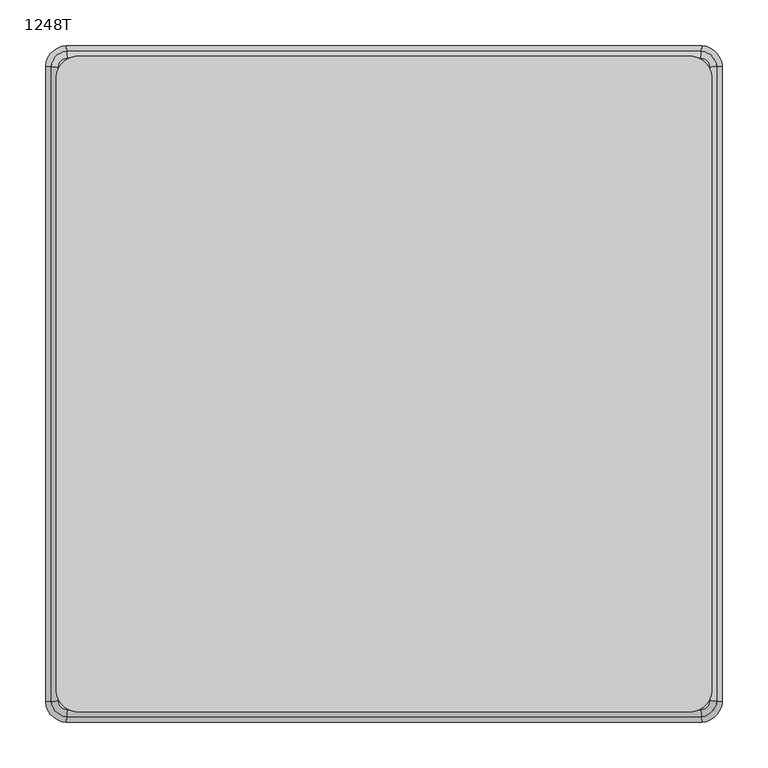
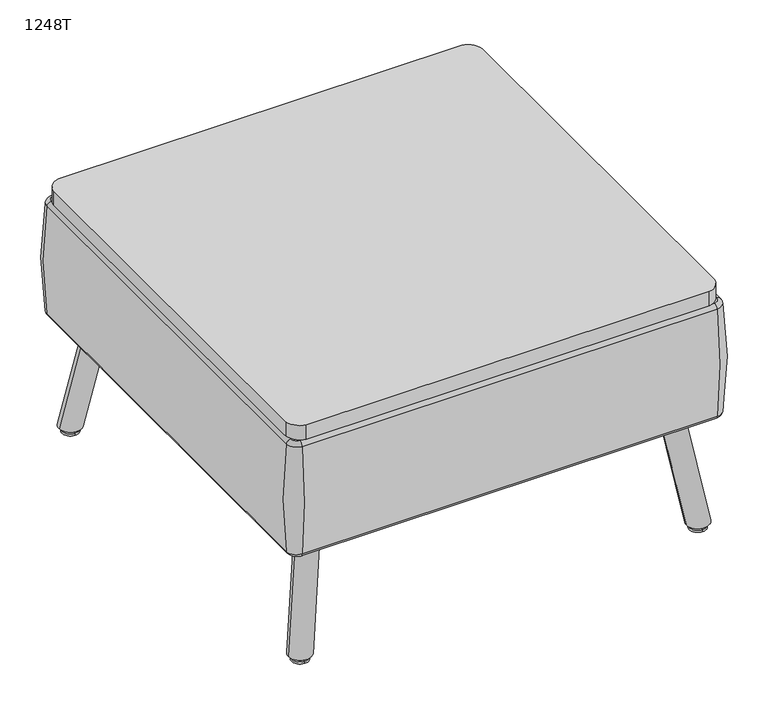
"""IFC4 building model written with IfcOpenShell, lengths in millimetres: furniture geometry, Laguna-Square_Ottomans-With_Legs-ERG : 1248T."""

from ifc_helpers import new_model, si_unit, point, frame, frame_2d, origin, place, context, project, spatial, polyline, circle_curve, ellipse_curve, trimmed, segment, composite_curve, outline, extrude, source, transform, mapped, element, save
from ifc_brep_helpers import plane_surface, cylinder_surface, revolved_surface, spline_surface, advanced_brep


def furniture_1248t_9be65b18(model_context):
    return source(origin(), model_context, "Body", "SolidModel", [
        extrude(outline(composite_curve([segment(trimmed(circle_curve(frame_2d((-4023.6772587, 595.0909326)), 25.4), [point((-3998.5401244, 591.4461449))], [point((-4020.032471, 569.9537983))], False, "CARTESIAN"), True, "CONTINUOUS"), segment(trimmed(circle_curve(frame_2d((-4357.9421763, 6623.2359155)), 6062.7062736), [point((-4020.032471, 569.9537983))], [point((-4695.8518816, 569.9537983))], False, "CARTESIAN"), True, "CONTINUOUS"), segment(trimmed(circle_curve(frame_2d((-4692.2070939, 595.0909326)), 25.4), [point((-4695.8518816, 569.9537983))], [point((-4717.3442282, 591.4461449))], False, "CARTESIAN"), True, "CONTINUOUS"), segment(trimmed(circle_curve(frame_2d((1335.937889, 929.3558502)), 6062.7062736), [point((-4717.3442282, 591.4461449))], [point((-4717.3442282, 1267.2655555))], False, "CARTESIAN"), True, "CONTINUOUS"), segment(trimmed(circle_curve(frame_2d((-4692.2070939, 1263.6207677)), 25.4), [point((-4717.3442282, 1267.2655555))], [point((-4695.8518816, 1288.7579021))], False, "CARTESIAN"), True, "CONTINUOUS"), segment(trimmed(circle_curve(frame_2d((-4357.9421763, -4764.5242152)), 6062.7062736), [point((-4695.8518816, 1288.7579021))], [point((-4020.032471, 1288.7579021))], False, "CARTESIAN"), True, "CONTINUOUS"), segment(trimmed(circle_curve(frame_2d((-4023.6772587, 1263.6207677)), 25.4), [point((-4020.032471, 1288.7579021))], [point((-3998.5401244, 1267.2655555))], False, "CARTESIAN"), True, "CONTINUOUS"), segment(trimmed(circle_curve(frame_2d((-10051.8222416, 929.3558502)), 6062.7062736), [point((-3998.5401244, 1267.2655555))], [point((-3998.5401244, 591.4461449))], False, "CARTESIAN"), True, "CONTINUOUS")], self_intersect=False)), frame((0.0, 0.0, 406.4), z_axis=(0.0, 0.0, 1.0), x_axis=(1.0, 0.0, 0.0)), (0.0, 0.0, 1.0), 25.4),
        advanced_brep(
        [(-4705.4077961, 1286.5407835, 406.4), (-4715.1271097, 1276.82147, 406.4), (-4715.1271097, 581.8902303, 406.4), (-4705.4077961, 572.1709168, 406.4), (-4010.4765565, 572.1709168, 406.4), (-4000.757243, 581.8902303, 406.4), (-4000.757243, 1276.82147, 406.4), (-4010.4765565, 1286.5407835, 406.4), (-4715.1271097, 1276.82147, 203.2), (-4705.4077961, 1286.5407835, 203.2), (-4010.4765565, 1286.5407835, 203.2), (-4000.757243, 1276.82147, 203.2), (-4000.757243, 581.8902303, 203.2), (-4010.4765565, 572.1709168, 203.2), (-4705.4077961, 572.1709168, 203.2), (-4715.1271097, 581.8902303, 203.2), (-4722.6676775, 1277.2535593, 399.7887299), (-4705.8398855, 1294.0813513, 399.7887299), (-4705.8398855, 1294.0813513, 209.8112701), (-4722.6676775, 1277.2535593, 209.8112701), (-4722.6676775, 581.458141, 209.8112701), (-4722.6676775, 581.458141, 399.7887299), (-4705.8398855, 564.630349, 209.8112701), (-4705.8398855, 564.630349, 399.7887299), (-4010.0444671, 564.630349, 209.8112701), (-4010.0444671, 564.630349, 399.7887299), (-3993.2166751, 581.458141, 209.8112701), (-3993.2166751, 581.458141, 399.7887299), (-3993.2166751, 1277.2535593, 209.8112701), (-3993.2166751, 1277.2535593, 399.7887299), (-4010.0444671, 1294.0813513, 209.8112701), (-4010.0444671, 1294.0813513, 399.7887299)],
        [
            (0, 1, circle_curve(frame((-4704.8170071, 1276.2306809, 406.4), z_axis=(0.0, 0.0, 1.0), x_axis=(-0.05720811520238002, 0.9983622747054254, 0.0)), 10.3270154)),
            (1, 2, circle_curve(frame((1348.637889, 929.3558502, 406.4), z_axis=(0.0, 0.0, 1.0), x_axis=(-0.9983622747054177, 0.057208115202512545, 0.0)), 6073.7120706)),
            (2, 3, circle_curve(frame((-4704.8170071, 582.4810194, 406.4), z_axis=(0.0, 0.0, 1.0), x_axis=(-0.9983622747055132, -0.05720811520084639, 0.0)), 10.3270154)),
            (3, 4, circle_curve(frame((-4357.9421763, 6635.9359155, 406.4), z_axis=(0.0, 0.0, 1.0), x_axis=(-0.05720811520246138, -0.9983622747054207, 0.0)), 6073.7120706)),
            (4, 5, circle_curve(frame((-4011.0673456, 582.4810194, 406.4), z_axis=(0.0, 0.0, 1.0), x_axis=(0.05720811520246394, -0.9983622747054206, 0.0)), 10.3270154)),
            (5, 6, circle_curve(frame((-10064.5222416, 929.3558502, 406.4), z_axis=(0.0, 0.0, 1.0), x_axis=(0.9983622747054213, -0.05720811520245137, 0.0)), 6073.7120706)),
            (6, 7, circle_curve(frame((-4011.0673456, 1276.2306809, 406.4), z_axis=(0.0, 0.0, 1.0), x_axis=(0.9983622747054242, 0.057208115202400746, 0.0)), 10.3270154)),
            (7, 0, circle_curve(frame((-4357.9421763, -4777.2242152, 406.4), z_axis=(0.0, 0.0, 1.0), x_axis=(0.0572081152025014, 0.9983622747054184, 0.0)), 6073.7120706)),
            (8, 9, circle_curve(frame((-4704.8170071, 1276.2306809, 203.2), z_axis=(0.0, 0.0, -1.0), x_axis=(-0.05720811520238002, 0.9983622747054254, 0.0)), 10.3270154)),
            (9, 10, circle_curve(frame((-4357.9421763, -4777.2242152, 203.2), z_axis=(0.0, 0.0, -1.0), x_axis=(0.0572081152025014, 0.9983622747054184, 0.0)), 6073.7120706)),
            (10, 11, circle_curve(frame((-4011.0673456, 1276.2306809, 203.2), z_axis=(0.0, 0.0, -1.0), x_axis=(0.9983622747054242, 0.057208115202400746, 0.0)), 10.3270154)),
            (11, 12, circle_curve(frame((-10064.5222416, 929.3558502, 203.2), z_axis=(0.0, 0.0, -1.0), x_axis=(0.9983622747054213, -0.05720811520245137, 0.0)), 6073.7120706)),
            (12, 13, circle_curve(frame((-4011.0673456, 582.4810194, 203.2), z_axis=(0.0, 0.0, -1.0), x_axis=(0.05720811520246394, -0.9983622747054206, 0.0)), 10.3270154)),
            (13, 14, circle_curve(frame((-4357.9421763, 6635.9359155, 203.2), z_axis=(0.0, 0.0, -1.0), x_axis=(-0.05720811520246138, -0.9983622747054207, 0.0)), 6073.7120706)),
            (14, 15, circle_curve(frame((-4704.8170071, 582.4810194, 203.2), z_axis=(0.0, 0.0, -1.0), x_axis=(-0.9983622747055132, -0.05720811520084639, 0.0)), 10.3270154)),
            (15, 8, circle_curve(frame((1348.637889, 929.3558502, 203.2), z_axis=(0.0, 0.0, -1.0), x_axis=(-0.9983622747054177, 0.057208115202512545, 0.0)), 6073.7120706)),
            (16, 17, circle_curve(frame((-4704.8170071, 1276.2306809, 399.7887299), z_axis=(0.0, 0.0, -1.0), x_axis=(-0.05720811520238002, 0.9983622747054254, 0.0)), 17.8799529)),
            (17, 18, circle_curve(frame((-4665.1514749, 584.0112161, 304.8), z_axis=(-0.9983622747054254, -0.057208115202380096, 0.0), x_axis=(0.057208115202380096, -0.9983622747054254, 0.0)), 717.55)),
            (18, 19, circle_curve(frame((-4704.8170071, 1276.2306809, 209.8112701), z_axis=(0.0, 0.0, 1.0), x_axis=(-0.05720811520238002, 0.9983622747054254, 0.0)), 17.8799529)),
            (19, 16, circle_curve(frame((-4012.5975423, 1236.5651488, 304.8), z_axis=(0.057208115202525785, 0.998362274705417, 0.0), x_axis=(0.998362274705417, -0.057208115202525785, 0.0)), 717.55)),
            (16, 1, circle_curve(frame((-4715.1271097, 1276.82147, 398.78), z_axis=(0.057208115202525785, 0.998362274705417, 0.0), x_axis=(0.998362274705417, -0.057208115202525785, 0.0)), 7.62)),
            (0, 17, circle_curve(frame((-4705.4077961, 1286.5407835, 398.78), z_axis=(-0.9983622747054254, -0.057208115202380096, 0.0), x_axis=(0.057208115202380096, -0.9983622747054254, 0.0)), 7.62)),
            (18, 9, circle_curve(frame((-4705.4077961, 1286.5407835, 210.82), z_axis=(-0.9983622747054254, -0.057208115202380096, 0.0), x_axis=(0.057208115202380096, -0.9983622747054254, 0.0)), 7.62)),
            (8, 19, circle_curve(frame((-4715.1271097, 1276.82147, 210.82), z_axis=(0.057208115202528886, 0.9983622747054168, 0.0), x_axis=(0.9983622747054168, -0.057208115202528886, 0.0)), 7.62)),
            (19, 20, circle_curve(frame((1348.637889, 929.3558502, 209.8112701), z_axis=(0.0, 0.0, 1.0), x_axis=(-0.9983622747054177, 0.057208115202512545, 0.0)), 6081.265008)),
            (20, 21, circle_curve(frame((-4012.5975423, 622.1465515, 304.8), z_axis=(-0.05720811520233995, 0.9983622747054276, 0.0), x_axis=(0.9983622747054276, 0.05720811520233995, 0.0)), 717.55)),
            (21, 16, circle_curve(frame((1348.637889, 929.3558502, 399.7887299), z_axis=(0.0, 0.0, -1.0), x_axis=(-0.9983622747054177, 0.057208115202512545, 0.0)), 6081.265008)),
            (21, 2, circle_curve(frame((-4715.1271097, 581.8902303, 398.78), z_axis=(-0.05720811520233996, 0.9983622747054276, 0.0), x_axis=(0.9983622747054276, 0.05720811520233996, 0.0)), 7.62)),
            (15, 20, circle_curve(frame((-4715.1271097, 581.8902303, 210.82), z_axis=(-0.05720811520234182, 0.9983622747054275, 0.0), x_axis=(0.9983622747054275, 0.05720811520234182, 0.0)), 7.62)),
            (20, 22, circle_curve(frame((-4704.8170071, 582.4810194, 209.8112701), z_axis=(0.0, 0.0, 1.0), x_axis=(-0.9983622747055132, -0.05720811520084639, 0.0)), 17.8799529)),
            (22, 23, circle_curve(frame((-4665.1514749, 1274.7004842, 304.8), z_axis=(-0.9983622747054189, 0.057208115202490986, 0.0), x_axis=(0.057208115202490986, 0.9983622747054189, 0.0)), 717.55)),
            (23, 21, circle_curve(frame((-4704.8170071, 582.4810194, 399.7887299), z_axis=(0.0, 0.0, -1.0), x_axis=(-0.9983622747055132, -0.05720811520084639, 0.0)), 17.8799529)),
            (23, 3, circle_curve(frame((-4705.4077961, 572.1709168, 398.78), z_axis=(-0.9983622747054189, 0.057208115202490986, 0.0), x_axis=(0.057208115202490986, 0.9983622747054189, 0.0)), 7.62)),
            (14, 22, circle_curve(frame((-4705.4077961, 572.1709168, 210.82), z_axis=(-0.9983622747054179, 0.05720811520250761, 0.0), x_axis=(0.05720811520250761, 0.9983622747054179, 0.0)), 7.62)),
            (22, 24, circle_curve(frame((-4357.9421763, 6635.9359155, 209.8112701), z_axis=(0.0, 0.0, 1.0), x_axis=(-0.05720811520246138, -0.9983622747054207, 0.0)), 6081.265008)),
            (24, 25, circle_curve(frame((-4050.7328777, 1274.7004842, 304.8), z_axis=(-0.9983622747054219, -0.057208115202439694, 0.0), x_axis=(-0.057208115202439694, 0.9983622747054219, 0.0)), 717.55)),
            (25, 23, circle_curve(frame((-4357.9421763, 6635.9359155, 399.7887299), z_axis=(0.0, 0.0, -1.0), x_axis=(-0.05720811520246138, -0.9983622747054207, 0.0)), 6081.265008)),
            (25, 4, circle_curve(frame((-4010.4765565, 572.1709168, 398.78), z_axis=(-0.9983622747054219, -0.057208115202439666, 0.0), x_axis=(-0.057208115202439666, 0.9983622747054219, 0.0)), 7.62)),
            (13, 24, circle_curve(frame((-4010.4765565, 572.1709168, 210.82), z_axis=(-0.9983622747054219, -0.05720811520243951, 0.0), x_axis=(-0.05720811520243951, 0.9983622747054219, 0.0)), 7.62)),
            (24, 26, circle_curve(frame((-4011.0673456, 582.4810194, 209.8112701), z_axis=(0.0, 0.0, 1.0), x_axis=(0.05720811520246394, -0.9983622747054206, 0.0)), 17.8799529)),
            (26, 27, circle_curve(frame((-4703.2868104, 622.1465515, 304.8), z_axis=(-0.05720811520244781, -0.9983622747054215, 0.0), x_axis=(-0.9983622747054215, 0.05720811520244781, 0.0)), 717.55)),
            (27, 25, circle_curve(frame((-4011.0673456, 582.4810194, 399.7887299), z_axis=(0.0, 0.0, -1.0), x_axis=(0.05720811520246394, -0.9983622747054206, 0.0)), 17.8799529)),
            (27, 5, circle_curve(frame((-4000.757243, 581.8902303, 398.78), z_axis=(-0.05720811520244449, -0.9983622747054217, 0.0), x_axis=(-0.9983622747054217, 0.05720811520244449, 0.0)), 7.62)),
            (12, 26, circle_curve(frame((-4000.757243, 581.8902303, 210.82), z_axis=(-0.05720811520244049, -0.9983622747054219, 0.0), x_axis=(-0.9983622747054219, 0.05720811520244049, 0.0)), 7.62)),
            (26, 28, circle_curve(frame((-10064.5222416, 929.3558502, 209.8112701), z_axis=(0.0, 0.0, 1.0), x_axis=(0.9983622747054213, -0.05720811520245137, 0.0)), 6081.265008)),
            (28, 29, circle_curve(frame((-4703.2868104, 1236.5651488, 304.8), z_axis=(0.05720811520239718, -0.9983622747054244, 0.0), x_axis=(-0.9983622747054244, -0.05720811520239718, 0.0)), 717.55)),
            (29, 27, circle_curve(frame((-10064.5222416, 929.3558502, 399.7887299), z_axis=(0.0, 0.0, -1.0), x_axis=(0.9983622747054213, -0.05720811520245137, 0.0)), 6081.265008)),
            (29, 6, circle_curve(frame((-4000.757243, 1276.82147, 398.78), z_axis=(0.057208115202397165, -0.9983622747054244, 0.0), x_axis=(-0.9983622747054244, -0.057208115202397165, 0.0)), 7.62)),
            (11, 28, circle_curve(frame((-4000.757243, 1276.82147, 210.82), z_axis=(0.05720811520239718, -0.9983622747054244, 0.0), x_axis=(-0.9983622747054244, -0.05720811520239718, 0.0)), 7.62)),
            (28, 30, circle_curve(frame((-4011.0673456, 1276.2306809, 209.8112701), z_axis=(0.0, 0.0, 1.0), x_axis=(0.9983622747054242, 0.057208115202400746, 0.0)), 17.8799529)),
            (30, 31, circle_curve(frame((-4050.7328777, 584.0112161, 304.8), z_axis=(0.9983622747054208, -0.05720811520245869, 0.0), x_axis=(-0.05720811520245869, -0.9983622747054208, 0.0)), 717.55)),
            (31, 29, circle_curve(frame((-4011.0673456, 1276.2306809, 399.7887299), z_axis=(0.0, 0.0, -1.0), x_axis=(0.9983622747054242, 0.057208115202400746, 0.0)), 17.8799529)),
            (31, 7, circle_curve(frame((-4010.4765565, 1286.5407835, 398.78), z_axis=(0.9983622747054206, -0.05720811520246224, 0.0), x_axis=(-0.05720811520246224, -0.9983622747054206, 0.0)), 7.62)),
            (10, 30, circle_curve(frame((-4010.4765565, 1286.5407835, 210.82), z_axis=(0.9983622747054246, -0.05720811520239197, 0.0), x_axis=(-0.05720811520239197, -0.9983622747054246, 0.0)), 7.62)),
            (17, 31, circle_curve(frame((-4357.9421763, -4777.2242152, 399.7887299), z_axis=(0.0, 0.0, -1.0), x_axis=(0.0572081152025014, 0.9983622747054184, 0.0)), 6081.265008)),
            (30, 18, circle_curve(frame((-4357.9421763, -4777.2242152, 209.8112701), z_axis=(0.0, 0.0, 1.0), x_axis=(0.0572081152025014, 0.9983622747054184, 0.0)), 6081.265008)),
        ],
        [
            plane_surface(frame((-4694.4899916, 1276.2306809, 406.4), z_axis=(0.0, 0.0, 1.0), x_axis=(0.0, 1.0, 0.0))),
            plane_surface(frame((-4694.4899916, 1276.2306809, 203.2), z_axis=(0.0, 0.0, -1.0), x_axis=(0.0, -1.0, 0.0))),
            revolved_surface(trimmed(ellipse_curve(frame((-4665.1514749, 584.0112161, 304.8), z_axis=(0.9983622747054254, 0.057208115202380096, 0.0), x_axis=(0.057208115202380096, -0.9983622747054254, 0.0)), 717.55, 717.55), [point((-4705.8398855, 1294.0813513, 209.8112701))], [point((-4705.8398855, 1294.0813513, 399.7887299))], True, "CARTESIAN"), (-4704.8170071, 1276.2306809, 0.0), (0.0, 0.0, 1.0)),
            revolved_surface(trimmed(ellipse_curve(frame((-4705.4077961, 1286.5407835, 398.78), z_axis=(0.9983622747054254, 0.057208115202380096, 0.0), x_axis=(0.057208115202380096, -0.9983622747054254, 0.0)), 7.62, 7.62), [point((-4705.8398855, 1294.0813513, 399.7887299))], [point((-4705.4077961, 1286.5407835, 406.4))], True, "CARTESIAN"), (-4704.8170071, 1276.2306809, 0.0), (0.0, 0.0, 1.0)),
            revolved_surface(trimmed(ellipse_curve(frame((-4705.4077961, 1286.5407835, 210.82), z_axis=(0.9983622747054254, 0.057208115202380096, 0.0), x_axis=(0.057208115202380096, -0.9983622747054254, 0.0)), 7.62, 7.62), [point((-4705.4077961, 1286.5407835, 203.2))], [point((-4705.8398855, 1294.0813513, 209.8112701))], True, "CARTESIAN"), (-4704.8170071, 1276.2306809, 0.0), (0.0, 0.0, 1.0)),
            revolved_surface(trimmed(ellipse_curve(frame((-4012.5975423, 1236.5651488, 304.8), z_axis=(0.05720811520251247, 0.9983622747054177, 0.0), x_axis=(0.9983622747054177, -0.05720811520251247, 0.0)), 717.55, 717.55), [point((-4722.6676775, 1277.2535593, 209.8112701))], [point((-4722.6676775, 1277.2535593, 399.7887299))], True, "CARTESIAN"), (1348.637889, 929.3558502, 0.0), (0.0, 0.0, 1.0)),
            revolved_surface(trimmed(ellipse_curve(frame((-4715.1271097, 1276.82147, 398.78), z_axis=(0.05720811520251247, 0.9983622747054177, 0.0), x_axis=(0.9983622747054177, -0.05720811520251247, 0.0)), 7.62, 7.62), [point((-4722.6676775, 1277.2535593, 399.7887299))], [point((-4715.1271097, 1276.82147, 406.4))], True, "CARTESIAN"), (1348.637889, 929.3558502, 0.0), (0.0, 0.0, 1.0)),
            revolved_surface(trimmed(ellipse_curve(frame((-4715.1271097, 1276.82147, 210.82), z_axis=(0.05720811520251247, 0.9983622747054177, 0.0), x_axis=(0.9983622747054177, -0.05720811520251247, 0.0)), 7.62, 7.62), [point((-4715.1271097, 1276.82147, 203.2))], [point((-4722.6676775, 1277.2535593, 209.8112701))], True, "CARTESIAN"), (1348.637889, 929.3558502, 0.0), (0.0, 0.0, 1.0)),
            revolved_surface(trimmed(ellipse_curve(frame((-4012.5975423, 622.1465515, 304.8), z_axis=(-0.05720811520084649, 0.9983622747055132, 0.0), x_axis=(0.9983622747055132, 0.05720811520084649, 0.0)), 717.55, 717.55), [point((-4722.6676775, 581.458141, 209.8112701))], [point((-4722.6676775, 581.458141, 399.7887299))], True, "CARTESIAN"), (-4704.8170071, 582.4810194, 0.0), (0.0, 0.0, 1.0)),
            revolved_surface(trimmed(ellipse_curve(frame((-4715.1271097, 581.8902303, 398.78), z_axis=(-0.05720811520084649, 0.9983622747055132, 0.0), x_axis=(0.9983622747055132, 0.05720811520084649, 0.0)), 7.62, 7.62), [point((-4722.6676775, 581.458141, 399.7887299))], [point((-4715.1271097, 581.8902303, 406.4))], True, "CARTESIAN"), (-4704.8170071, 582.4810194, 0.0), (0.0, 0.0, 1.0)),
            revolved_surface(trimmed(ellipse_curve(frame((-4715.1271097, 581.8902303, 210.82), z_axis=(-0.05720811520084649, 0.9983622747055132, 0.0), x_axis=(0.9983622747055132, 0.05720811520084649, 0.0)), 7.62, 7.62), [point((-4715.1271097, 581.8902303, 203.2))], [point((-4722.6676775, 581.458141, 209.8112701))], True, "CARTESIAN"), (-4704.8170071, 582.4810194, 0.0), (0.0, 0.0, 1.0)),
            revolved_surface(trimmed(ellipse_curve(frame((-4665.1514749, 1274.7004842, 304.8), z_axis=(-0.9983622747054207, 0.05720811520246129, 0.0), x_axis=(0.05720811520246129, 0.9983622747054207, 0.0)), 717.55, 717.55), [point((-4705.8398855, 564.630349, 209.8112701))], [point((-4705.8398855, 564.630349, 399.7887299))], True, "CARTESIAN"), (-4357.9421763, 6635.9359155, 0.0), (0.0, 0.0, 1.0)),
            revolved_surface(trimmed(ellipse_curve(frame((-4705.4077961, 572.1709168, 398.78), z_axis=(-0.9983622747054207, 0.05720811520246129, 0.0), x_axis=(0.05720811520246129, 0.9983622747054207, 0.0)), 7.62, 7.62), [point((-4705.8398855, 564.630349, 399.7887299))], [point((-4705.4077961, 572.1709168, 406.4))], True, "CARTESIAN"), (-4357.9421763, 6635.9359155, 0.0), (0.0, 0.0, 1.0)),
            revolved_surface(trimmed(ellipse_curve(frame((-4705.4077961, 572.1709168, 210.82), z_axis=(-0.9983622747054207, 0.05720811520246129, 0.0), x_axis=(0.05720811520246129, 0.9983622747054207, 0.0)), 7.62, 7.62), [point((-4705.4077961, 572.1709168, 203.2))], [point((-4705.8398855, 564.630349, 209.8112701))], True, "CARTESIAN"), (-4357.9421763, 6635.9359155, 0.0), (0.0, 0.0, 1.0)),
            revolved_surface(trimmed(ellipse_curve(frame((-4050.7328777, 1274.7004842, 304.8), z_axis=(-0.9983622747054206, -0.05720811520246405, 0.0), x_axis=(-0.05720811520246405, 0.9983622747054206, 0.0)), 717.55, 717.55), [point((-4010.0444671, 564.630349, 209.8112701))], [point((-4010.0444671, 564.630349, 399.7887299))], True, "CARTESIAN"), (-4011.0673456, 582.4810194, 0.0), (0.0, 0.0, 1.0)),
            revolved_surface(trimmed(ellipse_curve(frame((-4010.4765565, 572.1709168, 398.78), z_axis=(-0.9983622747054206, -0.05720811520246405, 0.0), x_axis=(-0.05720811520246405, 0.9983622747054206, 0.0)), 7.62, 7.62), [point((-4010.0444671, 564.630349, 399.7887299))], [point((-4010.4765565, 572.1709168, 406.4))], True, "CARTESIAN"), (-4011.0673456, 582.4810194, 0.0), (0.0, 0.0, 1.0)),
            revolved_surface(trimmed(ellipse_curve(frame((-4010.4765565, 572.1709168, 210.82), z_axis=(-0.9983622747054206, -0.05720811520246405, 0.0), x_axis=(-0.05720811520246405, 0.9983622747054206, 0.0)), 7.62, 7.62), [point((-4010.4765565, 572.1709168, 203.2))], [point((-4010.0444671, 564.630349, 209.8112701))], True, "CARTESIAN"), (-4011.0673456, 582.4810194, 0.0), (0.0, 0.0, 1.0)),
            revolved_surface(trimmed(ellipse_curve(frame((-4703.2868104, 622.1465515, 304.8), z_axis=(-0.05720811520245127, -0.9983622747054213, 0.0), x_axis=(-0.9983622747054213, 0.05720811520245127, 0.0)), 717.55, 717.55), [point((-3993.2166751, 581.458141, 209.8112701))], [point((-3993.2166751, 581.458141, 399.7887299))], True, "CARTESIAN"), (-10064.5222416, 929.3558502, 0.0), (0.0, 0.0, 1.0)),
            revolved_surface(trimmed(ellipse_curve(frame((-4000.757243, 581.8902303, 398.78), z_axis=(-0.05720811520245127, -0.9983622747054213, 0.0), x_axis=(-0.9983622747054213, 0.05720811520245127, 0.0)), 7.62, 7.62), [point((-3993.2166751, 581.458141, 399.7887299))], [point((-4000.757243, 581.8902303, 406.4))], True, "CARTESIAN"), (-10064.5222416, 929.3558502, 0.0), (0.0, 0.0, 1.0)),
            revolved_surface(trimmed(ellipse_curve(frame((-4000.757243, 581.8902303, 210.82), z_axis=(-0.05720811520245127, -0.9983622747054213, 0.0), x_axis=(-0.9983622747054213, 0.05720811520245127, 0.0)), 7.62, 7.62), [point((-4000.757243, 581.8902303, 203.2))], [point((-3993.2166751, 581.458141, 209.8112701))], True, "CARTESIAN"), (-10064.5222416, 929.3558502, 0.0), (0.0, 0.0, 1.0)),
            revolved_surface(trimmed(ellipse_curve(frame((-4703.2868104, 1236.5651488, 304.8), z_axis=(0.05720811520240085, -0.9983622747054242, 0.0), x_axis=(-0.9983622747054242, -0.05720811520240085, 0.0)), 717.55, 717.55), [point((-3993.2166751, 1277.2535593, 209.8112701))], [point((-3993.2166751, 1277.2535593, 399.7887299))], True, "CARTESIAN"), (-4011.0673456, 1276.2306809, 0.0), (0.0, 0.0, 1.0)),
            revolved_surface(trimmed(ellipse_curve(frame((-4000.757243, 1276.82147, 398.78), z_axis=(0.05720811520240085, -0.9983622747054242, 0.0), x_axis=(-0.9983622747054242, -0.05720811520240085, 0.0)), 7.62, 7.62), [point((-3993.2166751, 1277.2535593, 399.7887299))], [point((-4000.757243, 1276.82147, 406.4))], True, "CARTESIAN"), (-4011.0673456, 1276.2306809, 0.0), (0.0, 0.0, 1.0)),
            revolved_surface(trimmed(ellipse_curve(frame((-4000.757243, 1276.82147, 210.82), z_axis=(0.05720811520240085, -0.9983622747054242, 0.0), x_axis=(-0.9983622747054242, -0.05720811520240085, 0.0)), 7.62, 7.62), [point((-4000.757243, 1276.82147, 203.2))], [point((-3993.2166751, 1277.2535593, 209.8112701))], True, "CARTESIAN"), (-4011.0673456, 1276.2306809, 0.0), (0.0, 0.0, 1.0)),
            revolved_surface(trimmed(ellipse_curve(frame((-4050.7328777, 584.0112161, 304.8), z_axis=(0.9983622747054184, -0.057208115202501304, 0.0), x_axis=(-0.057208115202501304, -0.9983622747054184, 0.0)), 717.55, 717.55), [point((-4010.0444671, 1294.0813513, 209.8112701))], [point((-4010.0444671, 1294.0813513, 399.7887299))], True, "CARTESIAN"), (-4357.9421763, -4777.2242152, 0.0), (0.0, 0.0, 1.0)),
            revolved_surface(trimmed(ellipse_curve(frame((-4010.4765565, 1286.5407835, 398.78), z_axis=(0.9983622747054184, -0.057208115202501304, 0.0), x_axis=(-0.057208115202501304, -0.9983622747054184, 0.0)), 7.62, 7.62), [point((-4010.0444671, 1294.0813513, 399.7887299))], [point((-4010.4765565, 1286.5407835, 406.4))], True, "CARTESIAN"), (-4357.9421763, -4777.2242152, 0.0), (0.0, 0.0, 1.0)),
            revolved_surface(trimmed(ellipse_curve(frame((-4010.4765565, 1286.5407835, 210.82), z_axis=(0.9983622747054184, -0.057208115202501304, 0.0), x_axis=(-0.057208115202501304, -0.9983622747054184, 0.0)), 7.62, 7.62), [point((-4010.4765565, 1286.5407835, 203.2))], [point((-4010.0444671, 1294.0813513, 209.8112701))], True, "CARTESIAN"), (-4357.9421763, -4777.2242152, 0.0), (0.0, 0.0, 1.0)),
        ],
        [
            (0, [[1, 2, 3, 4, 5, 6, 7, 8]]),
            (1, [[9, 10, 11, 12, 13, 14, 15, 16]]),
            (2, [[17, 18, 19, 20]]),
            (3, [[-17, 21, -1, 22]]),
            (4, [[-19, 23, -9, 24]]),
            (5, [[-20, 25, 26, 27]]),
            (6, [[-21, -27, 28, -2]]),
            (7, [[-24, -16, 29, -25]]),
            (8, [[-26, 30, 31, 32]]),
            (9, [[-28, -32, 33, -3]]),
            (10, [[-29, -15, 34, -30]]),
            (11, [[-31, 35, 36, 37]]),
            (12, [[-33, -37, 38, -4]]),
            (13, [[-34, -14, 39, -35]]),
            (14, [[-36, 40, 41, 42]]),
            (15, [[-38, -42, 43, -5]]),
            (16, [[-39, -13, 44, -40]]),
            (17, [[-41, 45, 46, 47]]),
            (18, [[-43, -47, 48, -6]]),
            (19, [[-44, -12, 49, -45]]),
            (20, [[-46, 50, 51, 52]]),
            (21, [[-48, -52, 53, -7]]),
            (22, [[-49, -11, 54, -50]]),
            (23, [[-18, 55, -51, 56]]),
            (24, [[-22, -8, -53, -55]]),
            (25, [[-23, -56, -54, -10]]),
        ],
    ),
        extrude(outline(composite_curve([segment(trimmed(circle_curve(frame_2d((-4654.4187381, 1268.9376413)), 5.08), [point((-4658.0108405, 1272.5297438))], [point((-4650.8266356, 1272.5297438))], False, "CARTESIAN"), True, "CONTINUOUS"), segment(polyline([(-4650.8266356, 1272.5297438), (-4622.089816, 1243.7929242)]), True, "CONTINUOUS"), segment(trimmed(circle_curve(frame_2d((-4625.6819185, 1240.2008217)), 5.08), [point((-4622.089816, 1243.7929242))], [point((-4622.089816, 1236.6087193))], False, "CARTESIAN"), True, "CONTINUOUS"), segment(polyline([(-4622.089816, 1236.6087193), (-4665.1950454, 1193.5034899)]), True, "CONTINUOUS"), segment(trimmed(circle_curve(frame_2d((-4668.7871479, 1197.0955923)), 5.08), [point((-4665.1950454, 1193.5034899))], [point((-4672.3792503, 1193.5034899))], False, "CARTESIAN"), True, "CONTINUOUS"), segment(polyline([(-4672.3792503, 1193.5034899), (-4701.1160699, 1222.2403095)]), True, "CONTINUOUS"), segment(trimmed(circle_curve(frame_2d((-4697.5239674, 1225.8324119)), 5.08), [point((-4701.1160699, 1222.2403095))], [point((-4701.1160699, 1229.4245144))], False, "CARTESIAN"), True, "CONTINUOUS"), segment(polyline([(-4701.1160699, 1229.4245144), (-4658.0108405, 1272.5297438)]), True, "CONTINUOUS")], self_intersect=False)), frame((0.0, 0.0, 200.66), z_axis=(0.0, 0.0, 1.0), x_axis=(1.0, 0.0, 0.0)), (0.0, 0.0, 1.0), 2.54),
        extrude(outline(composite_curve([segment(polyline([(-4057.8735121, 1272.5297438), (-4014.7682827, 1229.4245144)]), True, "CONTINUOUS"), segment(trimmed(circle_curve(frame_2d((-4018.3603852, 1225.8324119)), 5.08), [point((-4014.7682827, 1229.4245144))], [point((-4014.7682827, 1222.2403095))], False, "CARTESIAN"), True, "CONTINUOUS"), segment(polyline([(-4014.7682827, 1222.2403095), (-4043.5051023, 1193.5034899)]), True, "CONTINUOUS"), segment(trimmed(circle_curve(frame_2d((-4047.0972048, 1197.0955923)), 5.08), [point((-4043.5051023, 1193.5034899))], [point((-4050.6893072, 1193.5034899))], False, "CARTESIAN"), True, "CONTINUOUS"), segment(polyline([(-4050.6893072, 1193.5034899), (-4093.7945366, 1236.6087193)]), True, "CONTINUOUS"), segment(trimmed(circle_curve(frame_2d((-4090.2024341, 1240.2008217)), 5.08), [point((-4093.7945366, 1236.6087193))], [point((-4093.7945366, 1243.7929242))], False, "CARTESIAN"), True, "CONTINUOUS"), segment(polyline([(-4093.7945366, 1243.7929242), (-4065.057717, 1272.5297438)]), True, "CONTINUOUS"), segment(trimmed(circle_curve(frame_2d((-4061.4656145, 1268.9376413)), 5.08), [point((-4065.057717, 1272.5297438))], [point((-4057.8735121, 1272.5297438))], False, "CARTESIAN"), True, "CONTINUOUS")], self_intersect=False)), frame((0.0, 0.0, 200.66), z_axis=(0.0, 0.0, 1.0), x_axis=(1.0, 0.0, 0.0)), (0.0, 0.0, 1.0), 2.54),
        extrude(outline(composite_curve([segment(trimmed(circle_curve(frame_2d((-4018.3603852, 632.8792884)), 5.08), [point((-4014.7682827, 636.4713909))], [point((-4014.7682827, 629.287186))], False, "CARTESIAN"), True, "CONTINUOUS"), segment(polyline([(-4014.7682827, 629.287186), (-4057.8735121, 586.1819566)]), True, "CONTINUOUS"), segment(trimmed(circle_curve(frame_2d((-4061.4656145, 589.774059)), 5.08), [point((-4057.8735121, 586.1819566))], [point((-4065.057717, 586.1819566))], False, "CARTESIAN"), True, "CONTINUOUS"), segment(polyline([(-4065.057717, 586.1819566), (-4093.7945366, 614.9187762)]), True, "CONTINUOUS"), segment(trimmed(circle_curve(frame_2d((-4090.2024341, 618.5108786)), 5.08), [point((-4093.7945366, 614.9187762))], [point((-4093.7945366, 622.1029811))], False, "CARTESIAN"), True, "CONTINUOUS"), segment(polyline([(-4093.7945366, 622.1029811), (-4050.6893072, 665.2082105)]), True, "CONTINUOUS"), segment(trimmed(circle_curve(frame_2d((-4047.0972048, 661.616108)), 5.08), [point((-4050.6893072, 665.2082105))], [point((-4043.5051023, 665.2082105))], False, "CARTESIAN"), True, "CONTINUOUS"), segment(polyline([(-4043.5051023, 665.2082105), (-4014.7682827, 636.4713909)]), True, "CONTINUOUS")], self_intersect=False)), frame((0.0, 0.0, 200.66), z_axis=(0.0, 0.0, 1.0), x_axis=(1.0, 0.0, 0.0)), (0.0, 0.0, 1.0), 2.54),
        extrude(outline(composite_curve([segment(polyline([(-4665.1950454, 665.2082105), (-4622.089816, 622.1029811)]), True, "CONTINUOUS"), segment(trimmed(circle_curve(frame_2d((-4625.6819185, 618.5108786)), 5.08), [point((-4622.089816, 622.1029811))], [point((-4622.089816, 614.9187762))], False, "CARTESIAN"), True, "CONTINUOUS"), segment(polyline([(-4622.089816, 614.9187762), (-4650.8266356, 586.1819566)]), True, "CONTINUOUS"), segment(trimmed(circle_curve(frame_2d((-4654.4187381, 589.774059)), 5.08), [point((-4650.8266356, 586.1819566))], [point((-4658.0108405, 586.1819566))], False, "CARTESIAN"), True, "CONTINUOUS"), segment(polyline([(-4658.0108405, 586.1819566), (-4701.1160699, 629.287186)]), True, "CONTINUOUS"), segment(trimmed(circle_curve(frame_2d((-4697.5239674, 632.8792884)), 5.08), [point((-4701.1160699, 629.287186))], [point((-4701.1160699, 636.4713909))], False, "CARTESIAN"), True, "CONTINUOUS"), segment(polyline([(-4701.1160699, 636.4713909), (-4672.3792503, 665.2082105)]), True, "CONTINUOUS"), segment(trimmed(circle_curve(frame_2d((-4668.7871479, 661.616108)), 5.08), [point((-4672.3792503, 665.2082105))], [point((-4665.1950454, 665.2082105))], False, "CARTESIAN"), True, "CONTINUOUS")], self_intersect=False)), frame((0.0, 0.0, 200.66), z_axis=(0.0, 0.0, 1.0), x_axis=(1.0, 0.0, 0.0)), (0.0, 0.0, 1.0), 2.54),
        advanced_brep(
        [(-4691.3048436, 600.236231, 10.16), (-4691.3048436, 591.7501347, 10.16), (-4691.3048436, 591.7501347, 3.9615026), (-4691.3048436, 600.236231, 3.9615026), (-4691.3048436, 581.9148294, 3.9615026), (-4691.3048436, 610.0715363, 3.9615026), (-4691.3048436, 581.9148294, 0.0), (-4691.3048436, 610.0715363, 0.0), (-4691.3048436, 595.9931828, 0.0), (-4691.3048436, 595.9931828, 10.16)],
        [
            (0, 1, circle_curve(frame((-4691.3048436, 595.9931828, 10.16), z_axis=(0.0, 0.0, -1.0), x_axis=(0.0, -1.0, 0.0)), 4.2430482)),
            (1, 2),
            (2, 3, circle_curve(frame((-4691.3048436, 595.9931828, 3.9615026), z_axis=(0.0, 0.0, 1.0), x_axis=(0.0, -1.0, 0.0)), 4.2430482)),
            (3, 0),
            (1, 0, circle_curve(frame((-4691.3048436, 595.9931828, 10.16), z_axis=(0.0, 0.0, -1.0), x_axis=(0.0, -1.0, 0.0)), 4.2430482)),
            (3, 2, circle_curve(frame((-4691.3048436, 595.9931828, 3.9615026), z_axis=(0.0, 0.0, 1.0), x_axis=(0.0, -1.0, 0.0)), 4.2430482)),
            (2, 4),
            (4, 5, circle_curve(frame((-4691.3048436, 595.9931828, 3.9615026), z_axis=(0.0, 0.0, 1.0), x_axis=(0.0, -1.0, 0.0)), 14.0783534)),
            (5, 3),
            (5, 4, circle_curve(frame((-4691.3048436, 595.9931828, 3.9615026), z_axis=(0.0, 0.0, 1.0), x_axis=(0.0, -1.0, 0.0)), 14.0783534)),
            (4, 6),
            (6, 7, circle_curve(frame((-4691.3048436, 595.9931828, 0.0), z_axis=(0.0, 0.0, 1.0), x_axis=(0.0, -1.0, 0.0)), 14.0783534)),
            (7, 5),
            (7, 6, circle_curve(frame((-4691.3048436, 595.9931828, 0.0), z_axis=(0.0, 0.0, 1.0), x_axis=(0.0, -1.0, 0.0)), 14.0783534)),
            (6, 8),
            (8, 7),
            (9, 1),
            (0, 9),
        ],
        [
            cylinder_surface(frame((-4691.3048436, 595.9931828, 20.9252452), z_axis=(0.0, 0.0, 1.0), x_axis=(0.0, -1.0, 0.0)), 4.2430482),
            plane_surface(frame((-4691.3048436, 595.9931828, 3.9615026), z_axis=(0.0, 0.0, 1.0), x_axis=(0.0, -1.0, 0.0))),
            cylinder_surface(frame((-4691.3048436, 595.9931828, 20.9252452), z_axis=(0.0, 0.0, 1.0), x_axis=(0.0, -1.0, 0.0)), 14.0783534),
            plane_surface(frame((-4691.3048436, 595.9931828, 0.0), z_axis=(0.0, 0.0, -1.0), x_axis=(0.0, -1.0, 0.0))),
            plane_surface(frame((-4691.3048436, 595.9931828, 10.16), z_axis=(0.0, 0.0, 1.0), x_axis=(0.0, -1.0, 0.0))),
        ],
        [
            (0, [[1, 2, 3, 4]]),
            (0, [[5, -4, 6, -2]]),
            (1, [[-3, 7, 8, 9]]),
            (1, [[-6, -9, 10, -7]]),
            (2, [[-8, 11, 12, 13]]),
            (2, [[-10, -13, 14, -11]]),
            (3, [[-12, 15, 16]]),
            (3, [[-14, -16, -15]]),
            (4, [[17, -1, 18]]),
            (4, [[-18, -5, -17]]),
        ],
    ),
        advanced_brep(
        [(-4691.3048436, 1266.9615656, 3.9615026), (-4691.3048436, 1258.4754693, 3.9615026), (-4691.3048436, 1248.6401641, 3.9615026), (-4691.3048436, 1276.7968709, 3.9615026), (-4691.3048436, 1248.6401641, 0.0), (-4691.3048436, 1276.7968709, 0.0), (-4691.3048436, 1262.7185175, 0.0), (-4691.3048436, 1262.7185175, 10.16), (-4691.3048436, 1258.4754693, 10.16), (-4691.3048436, 1266.9615656, 10.16)],
        [
            (0, 1, circle_curve(frame((-4691.3048436, 1262.7185175, 3.9615026), z_axis=(0.0, 0.0, -1.0), x_axis=(0.0, -1.0, 0.0)), 4.2430481)),
            (1, 2),
            (2, 3, circle_curve(frame((-4691.3048436, 1262.7185175, 3.9615026), z_axis=(0.0, 0.0, 1.0), x_axis=(0.0, -1.0, 0.0)), 14.0783534)),
            (3, 0),
            (1, 0, circle_curve(frame((-4691.3048436, 1262.7185175, 3.9615026), z_axis=(0.0, 0.0, -1.0), x_axis=(0.0, -1.0, 0.0)), 4.2430481)),
            (3, 2, circle_curve(frame((-4691.3048436, 1262.7185175, 3.9615026), z_axis=(0.0, 0.0, 1.0), x_axis=(0.0, -1.0, 0.0)), 14.0783534)),
            (2, 4),
            (4, 5, circle_curve(frame((-4691.3048436, 1262.7185175, 0.0), z_axis=(0.0, 0.0, 1.0), x_axis=(0.0, -1.0, 0.0)), 14.0783534)),
            (5, 3),
            (5, 4, circle_curve(frame((-4691.3048436, 1262.7185175, 0.0), z_axis=(0.0, 0.0, 1.0), x_axis=(0.0, -1.0, 0.0)), 14.0783534)),
            (4, 6),
            (6, 5),
            (7, 8),
            (8, 9, circle_curve(frame((-4691.3048436, 1262.7185175, 10.16), z_axis=(0.0, 0.0, 1.0), x_axis=(0.0, -1.0, 0.0)), 4.2430481)),
            (9, 7),
            (9, 8, circle_curve(frame((-4691.3048436, 1262.7185175, 10.16), z_axis=(0.0, 0.0, 1.0), x_axis=(0.0, -1.0, 0.0)), 4.2430481)),
            (8, 1),
            (0, 9),
        ],
        [
            plane_surface(frame((-4691.3048436, 1262.7185175, 3.9615026), z_axis=(0.0, 0.0, 1.0), x_axis=(0.0, -1.0, 0.0))),
            cylinder_surface(frame((-4691.3048436, 1262.7185175, 29.21), z_axis=(0.0, 0.0, 1.0), x_axis=(0.0, -1.0, 0.0)), 14.0783534),
            plane_surface(frame((-4691.3048436, 1262.7185175, 0.0), z_axis=(0.0, 0.0, -1.0), x_axis=(0.0, -1.0, 0.0))),
            plane_surface(frame((-4691.3048436, 1262.7185175, 10.16), z_axis=(0.0, 0.0, 1.0), x_axis=(0.0, -1.0, 0.0))),
            cylinder_surface(frame((-4691.3048436, 1262.7185175, 29.21), z_axis=(0.0, 0.0, 1.0), x_axis=(0.0, -1.0, 0.0)), 4.2430481),
        ],
        [
            (0, [[1, 2, 3, 4]]),
            (0, [[5, -4, 6, -2]]),
            (1, [[-3, 7, 8, 9]]),
            (1, [[-6, -9, 10, -7]]),
            (2, [[-8, 11, 12]]),
            (2, [[-10, -12, -11]]),
            (3, [[13, 14, 15]]),
            (3, [[-15, 16, -13]]),
            (4, [[-14, 17, -1, 18]]),
            (4, [[-16, -18, -5, -17]]),
        ],
    ),
        advanced_brep(
        [(-4024.579509, 600.236231, 3.9615026), (-4024.579509, 591.7501347, 3.9615026), (-4024.579509, 591.7501347, 10.16), (-4024.579509, 600.236231, 10.16), (-4024.579509, 610.0715363, 3.9615026), (-4024.579509, 581.9148294, 3.9615026), (-4024.579509, 610.0715363, 0.0), (-4024.579509, 581.9148294, 0.0), (-4024.579509, 595.9931828, 0.0), (-4024.579509, 595.9931828, 10.16)],
        [
            (0, 1, circle_curve(frame((-4024.579509, 595.9931828, 3.9615026), z_axis=(0.0, 0.0, 1.0), x_axis=(0.0, -1.0, 0.0)), 4.2430482)),
            (1, 2),
            (2, 3, circle_curve(frame((-4024.579509, 595.9931828, 10.16), z_axis=(0.0, 0.0, -1.0), x_axis=(0.0, -1.0, 0.0)), 4.2430482)),
            (3, 0),
            (1, 0, circle_curve(frame((-4024.579509, 595.9931828, 3.9615026), z_axis=(0.0, 0.0, 1.0), x_axis=(0.0, -1.0, 0.0)), 4.2430482)),
            (3, 2, circle_curve(frame((-4024.579509, 595.9931828, 10.16), z_axis=(0.0, 0.0, -1.0), x_axis=(0.0, -1.0, 0.0)), 4.2430482)),
            (4, 5, circle_curve(frame((-4024.579509, 595.9931828, 3.9615026), z_axis=(0.0, 0.0, 1.0), x_axis=(0.0, -1.0, 0.0)), 14.0783534)),
            (5, 1),
            (0, 4),
            (5, 4, circle_curve(frame((-4024.579509, 595.9931828, 3.9615026), z_axis=(0.0, 0.0, 1.0), x_axis=(0.0, -1.0, 0.0)), 14.0783534)),
            (6, 7, circle_curve(frame((-4024.579509, 595.9931828, 0.0), z_axis=(0.0, 0.0, 1.0), x_axis=(0.0, -1.0, 0.0)), 14.0783534)),
            (7, 5),
            (4, 6),
            (7, 6, circle_curve(frame((-4024.579509, 595.9931828, 0.0), z_axis=(0.0, 0.0, 1.0), x_axis=(0.0, -1.0, 0.0)), 14.0783534)),
            (8, 7),
            (6, 8),
            (2, 9),
            (9, 3),
        ],
        [
            cylinder_surface(frame((-4024.579509, 595.9931828, 20.9252452), z_axis=(0.0, 0.0, -1.0), x_axis=(0.0, -1.0, 0.0)), 4.2430482),
            plane_surface(frame((-4024.579509, 595.9931828, 3.9615026), z_axis=(0.0, 0.0, 1.0), x_axis=(0.0, -1.0, 0.0))),
            cylinder_surface(frame((-4024.579509, 595.9931828, 20.9252452), z_axis=(0.0, 0.0, -1.0), x_axis=(0.0, -1.0, 0.0)), 14.0783534),
            plane_surface(frame((-4024.579509, 595.9931828, 0.0), z_axis=(0.0, 0.0, -1.0), x_axis=(0.0, -1.0, 0.0))),
            plane_surface(frame((-4024.579509, 595.9931828, 10.16), z_axis=(0.0, 0.0, 1.0), x_axis=(0.0, -1.0, 0.0))),
        ],
        [
            (0, [[1, 2, 3, 4]]),
            (0, [[5, -4, 6, -2]]),
            (1, [[7, 8, -1, 9]]),
            (1, [[10, -9, -5, -8]]),
            (2, [[11, 12, -7, 13]]),
            (2, [[14, -13, -10, -12]]),
            (3, [[15, -11, 16]]),
            (3, [[-16, -14, -15]]),
            (4, [[-3, 17, 18]]),
            (4, [[-6, -18, -17]]),
        ],
    ),
        advanced_brep(
        [(-4024.579509, 1276.7968709, 3.9615026), (-4024.579509, 1248.6401641, 3.9615026), (-4024.579509, 1258.4754693, 3.9615026), (-4024.579509, 1266.9615656, 3.9615026), (-4024.579509, 1276.7968709, 0.0), (-4024.579509, 1248.6401641, 0.0), (-4024.579509, 1262.7185175, 0.0), (-4024.579509, 1266.9615656, 10.16), (-4024.579509, 1258.4754693, 10.16), (-4024.579509, 1262.7185175, 10.16)],
        [
            (0, 1, circle_curve(frame((-4024.579509, 1262.7185175, 3.9615026), z_axis=(0.0, 0.0, 1.0), x_axis=(0.0, -1.0, 0.0)), 14.0783534)),
            (1, 2),
            (2, 3, circle_curve(frame((-4024.579509, 1262.7185175, 3.9615026), z_axis=(0.0, 0.0, -1.0), x_axis=(0.0, -1.0, 0.0)), 4.2430481)),
            (3, 0),
            (1, 0, circle_curve(frame((-4024.579509, 1262.7185175, 3.9615026), z_axis=(0.0, 0.0, 1.0), x_axis=(0.0, -1.0, 0.0)), 14.0783534)),
            (3, 2, circle_curve(frame((-4024.579509, 1262.7185175, 3.9615026), z_axis=(0.0, 0.0, -1.0), x_axis=(0.0, -1.0, 0.0)), 4.2430481)),
            (4, 5, circle_curve(frame((-4024.579509, 1262.7185175, 0.0), z_axis=(0.0, 0.0, 1.0), x_axis=(0.0, -1.0, 0.0)), 14.0783534)),
            (5, 1),
            (0, 4),
            (5, 4, circle_curve(frame((-4024.579509, 1262.7185175, 0.0), z_axis=(0.0, 0.0, 1.0), x_axis=(0.0, -1.0, 0.0)), 14.0783534)),
            (6, 5),
            (4, 6),
            (7, 8, circle_curve(frame((-4024.579509, 1262.7185175, 10.16), z_axis=(0.0, 0.0, 1.0), x_axis=(0.0, -1.0, 0.0)), 4.2430481)),
            (8, 9),
            (9, 7),
            (8, 7, circle_curve(frame((-4024.579509, 1262.7185175, 10.16), z_axis=(0.0, 0.0, 1.0), x_axis=(0.0, -1.0, 0.0)), 4.2430481)),
            (2, 8),
            (7, 3),
        ],
        [
            plane_surface(frame((-4024.579509, 1262.7185175, 3.9615026), z_axis=(0.0, 0.0, 1.0), x_axis=(0.0, -1.0, 0.0))),
            cylinder_surface(frame((-4024.579509, 1262.7185175, 29.21), z_axis=(0.0, 0.0, -1.0), x_axis=(0.0, -1.0, 0.0)), 14.0783534),
            plane_surface(frame((-4024.579509, 1262.7185175, 0.0), z_axis=(0.0, 0.0, -1.0), x_axis=(0.0, -1.0, 0.0))),
            plane_surface(frame((-4024.579509, 1262.7185175, 10.16), z_axis=(0.0, 0.0, 1.0), x_axis=(0.0, -1.0, 0.0))),
            cylinder_surface(frame((-4024.579509, 1262.7185175, 29.21), z_axis=(0.0, 0.0, -1.0), x_axis=(0.0, -1.0, 0.0)), 4.2430481),
        ],
        [
            (0, [[1, 2, 3, 4]]),
            (0, [[5, -4, 6, -2]]),
            (1, [[7, 8, -1, 9]]),
            (1, [[10, -9, -5, -8]]),
            (2, [[11, -7, 12]]),
            (2, [[-12, -10, -11]]),
            (3, [[13, 14, 15]]),
            (3, [[16, -15, -14]]),
            (4, [[-3, 17, -13, 18]]),
            (4, [[-6, -18, -16, -17]]),
        ],
    ),
        advanced_brep(
        [(-4642.548749, 625.7091293, 203.2), (-4680.6290453, 625.7091293, 203.2), (-4672.1889568, 596.0309276, 10.16), (-4710.3452409, 596.0309276, 10.16)],
        [
            (0, 1, circle_curve(frame((-4661.5888971, 625.7091293, 203.2), z_axis=(0.0, 0.0, 1.0), x_axis=(-1.0, 0.0, 0.0)), 19.0401482)),
            (1, 0, circle_curve(frame((-4661.5888971, 625.7091293, 203.2), z_axis=(0.0, 0.0, 1.0), x_axis=(-1.0, 0.0, 0.0)), 19.0401482)),
            (2, 3, circle_curve(frame((-4691.2670988, 596.0309276, 10.16), z_axis=(0.0, 0.0, -1.0), x_axis=(-1.0, 0.0, 0.0)), 19.078142)),
            (3, 2, circle_curve(frame((-4691.2670988, 596.0309276, 10.16), z_axis=(0.0, 0.0, -1.0), x_axis=(-1.0, 0.0, 0.0)), 19.078142)),
            (2, 0),
            (1, 3),
        ],
        [
            plane_surface(frame((-4661.5888971, 625.7091293, 203.2), z_axis=(0.0, 0.0, 1.0), x_axis=(0.0, 1.0, 0.0))),
            plane_surface(frame((-4691.2670988, 596.0309276, 10.16), z_axis=(0.0, 0.0, -1.0), x_axis=(0.0, 1.0, 0.0))),
            spline_surface(2, 1, [[(-4710.3452409, 596.0309276, 10.16), (-4680.6290453, 625.7091293, 203.2)], [(-4710.3452409, 576.9527854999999, 10.16), (-4680.6290453, 606.6689811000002, 203.2)], [(-4691.2670988, 576.9527854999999, 10.16), (-4661.5888971, 606.6689811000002, 203.2)], [(-4672.1889567, 576.9527854, 10.16), (-4642.548748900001, 606.6689810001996, 203.2)], [(-4672.1889568, 596.0309276, 10.16), (-4642.548749, 625.7091293, 203.2)]], [3, 2, 3], [2, 2], [0.0, 1.0, 2.0], [0.0, 1.0], weights=[[1.0, 1.0], [0.7071067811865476, 0.7071067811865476], [1.0, 1.0], [0.7071067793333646, 0.7071067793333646], [1.0, 1.0]]),
            spline_surface(2, 1, [[(-4672.1889568, 596.0309276, 10.16), (-4642.548749, 625.7091293, 203.2)], [(-4672.1889568, 615.1090696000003, 10.16), (-4642.548749, 644.7492774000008, 203.2)], [(-4691.2670988, 615.1090696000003, 10.16), (-4661.5888971, 644.7492774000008, 203.2)], [(-4710.3452408, 615.1090695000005, 10.16), (-4680.629045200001, 644.7492773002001, 203.2)], [(-4710.3452409, 596.0309276, 10.16), (-4680.6290453, 625.7091293, 203.2)]], [3, 2, 3], [2, 2], [0.0, 1.0, 2.0], [0.0, 1.0], weights=[[1.0, 1.0], [0.7071067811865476, 0.7071067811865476], [1.0, 1.0], [0.7071067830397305, 0.7071067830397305], [1.0, 1.0]]),
        ],
        [
            (0, [[1, 2]]),
            (1, [[3, 4]]),
            (2, [[-3, 5, -2, 6]]),
            (3, [[-4, -6, -1, -5]]),
        ],
    ),
        advanced_brep(
        [(-4642.548749, 1233.002571, 203.2), (-4680.6290453, 1233.002571, 203.2), (-4672.1889568, 1262.6807727, 10.16), (-4710.3452409, 1262.6807727, 10.16)],
        [
            (0, 1, circle_curve(frame((-4661.5888971, 1233.002571, 203.2), z_axis=(0.0, 0.0, 1.0), x_axis=(-1.0, 0.0, 0.0)), 19.0401482)),
            (1, 0, circle_curve(frame((-4661.5888971, 1233.002571, 203.2), z_axis=(0.0, 0.0, 1.0), x_axis=(-1.0, 0.0, 0.0)), 19.0401482)),
            (2, 3, circle_curve(frame((-4691.2670988, 1262.6807727, 10.16), z_axis=(0.0, 0.0, -1.0), x_axis=(-1.0, 0.0, 0.0)), 19.078142)),
            (3, 2, circle_curve(frame((-4691.2670988, 1262.6807727, 10.16), z_axis=(0.0, 0.0, -1.0), x_axis=(-1.0, 0.0, 0.0)), 19.078142)),
            (3, 1),
            (0, 2),
        ],
        [
            plane_surface(frame((-4661.5888971, 1233.002571, 203.2), z_axis=(0.0, 0.0, 1.0), x_axis=(0.0, 1.0, 0.0))),
            plane_surface(frame((-4691.2670988, 1262.6807727, 10.16), z_axis=(0.0, 0.0, -1.0), x_axis=(0.0, 1.0, 0.0))),
            spline_surface(2, 1, [[(-4672.1889568, 1262.6807727, 10.16), (-4642.548749, 1233.002571, 203.2)], [(-4672.1889568, 1281.7589147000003, 10.16), (-4642.548749, 1252.0427191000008, 203.2)], [(-4691.2670988, 1281.7589147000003, 10.16), (-4661.5888971, 1252.0427191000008, 203.2)], [(-4710.3452408, 1281.7589146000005, 10.16), (-4680.629045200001, 1252.0427190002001, 203.2)], [(-4710.3452409, 1262.6807727, 10.16), (-4680.6290453, 1233.002571, 203.2)]], [3, 2, 3], [2, 2], [0.0, 1.0, 2.0], [0.0, 1.0], weights=[[1.0, 1.0], [0.7071067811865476, 0.7071067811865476], [1.0, 1.0], [0.7071067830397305, 0.7071067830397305], [1.0, 1.0]]),
            spline_surface(2, 1, [[(-4710.3452409, 1262.6807727, 10.16), (-4680.6290453, 1233.002571, 203.2)], [(-4710.3452409, 1243.6026305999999, 10.16), (-4680.6290453, 1213.9624228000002, 203.2)], [(-4691.2670988, 1243.6026305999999, 10.16), (-4661.5888971, 1213.9624228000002, 203.2)], [(-4672.1889567, 1243.6026305, 10.16), (-4642.548748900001, 1213.9624227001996, 203.2)], [(-4672.1889568, 1262.6807727, 10.16), (-4642.548749, 1233.002571, 203.2)]], [3, 2, 3], [2, 2], [0.0, 1.0, 2.0], [0.0, 1.0], weights=[[1.0, 1.0], [0.7071067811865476, 0.7071067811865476], [1.0, 1.0], [0.7071067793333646, 0.7071067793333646], [1.0, 1.0]]),
        ],
        [
            (0, [[1, 2]]),
            (1, [[3, 4]]),
            (2, [[-4, 5, -1, 6]]),
            (3, [[-3, -6, -2, -5]]),
        ],
    ),
        advanced_brep(
        [(-4073.3356037, 1233.002571, 203.2), (-4035.2553073, 1233.002571, 203.2), (-4043.6953958, 1262.6807727, 10.16), (-4005.5391118, 1262.6807727, 10.16)],
        [
            (0, 1, circle_curve(frame((-4054.2954555, 1233.002571, 203.2), z_axis=(0.0, 0.0, 1.0), x_axis=(1.0, 0.0, 0.0)), 19.0401482)),
            (1, 0, circle_curve(frame((-4054.2954555, 1233.002571, 203.2), z_axis=(0.0, 0.0, 1.0), x_axis=(1.0, 0.0, 0.0)), 19.0401482)),
            (2, 3, circle_curve(frame((-4024.6172538, 1262.6807727, 10.16), z_axis=(0.0, 0.0, -1.0), x_axis=(1.0, 0.0, 0.0)), 19.078142)),
            (3, 2, circle_curve(frame((-4024.6172538, 1262.6807727, 10.16), z_axis=(0.0, 0.0, -1.0), x_axis=(1.0, 0.0, 0.0)), 19.078142)),
            (2, 0),
            (1, 3),
        ],
        [
            plane_surface(frame((-4054.2954555, 1233.002571, 203.2), z_axis=(0.0, 0.0, 1.0), x_axis=(0.0, -1.0, 0.0))),
            plane_surface(frame((-4024.6172538, 1262.6807727, 10.16), z_axis=(0.0, 0.0, -1.0), x_axis=(0.0, -1.0, 0.0))),
            spline_surface(2, 1, [[(-4005.5391118, 1262.6807727, 10.16), (-4035.2553073, 1233.002571, 203.2)], [(-4005.5391118, 1281.7589147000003, 10.16), (-4035.2553073, 1252.0427192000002, 203.2)], [(-4024.6172538, 1281.7589147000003, 10.16), (-4054.2954555, 1252.0427192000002, 203.2)], [(-4043.6953958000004, 1281.7589147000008, 10.16), (-4073.3356037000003, 1252.0427192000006, 203.2)], [(-4043.6953958, 1262.6807727, 10.16), (-4073.3356037, 1233.002571, 203.2)]], [3, 2, 3], [2, 2], [0.0, 1.0, 2.0], [0.0, 1.0], weights=[[1.0, 1.0], [0.7071067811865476, 0.7071067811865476], [1.0, 1.0], [0.7071067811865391, 0.7071067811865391], [1.0, 1.0]]),
            spline_surface(2, 1, [[(-4043.6953958, 1262.6807727, 10.16), (-4073.3356037, 1233.002571, 203.2)], [(-4043.6953958, 1243.6026307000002, 10.16), (-4073.3356037, 1213.9624228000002, 203.2)], [(-4024.6172538, 1243.6026307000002, 10.16), (-4054.2954555, 1213.9624228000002, 203.2)], [(-4005.5391118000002, 1243.6026307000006, 10.16), (-4035.2553073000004, 1213.9624228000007, 203.2)], [(-4005.5391118, 1262.6807727, 10.16), (-4035.2553073, 1233.002571, 203.2)]], [3, 2, 3], [2, 2], [0.0, 1.0, 2.0], [0.0, 1.0], weights=[[1.0, 1.0], [0.7071067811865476, 0.7071067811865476], [1.0, 1.0], [0.707106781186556, 0.707106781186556], [1.0, 1.0]]),
        ],
        [
            (0, [[1, 2]]),
            (1, [[3, 4]]),
            (2, [[-3, 5, -2, 6]]),
            (3, [[-4, -6, -1, -5]]),
        ],
    ),
        advanced_brep(
        [(-4073.3356037, 625.7091293, 203.2), (-4035.2553073, 625.7091293, 203.2), (-4043.6953958, 596.0309276, 10.16), (-4005.5391118, 596.0309276, 10.16)],
        [
            (0, 1, circle_curve(frame((-4054.2954555, 625.7091293, 203.2), z_axis=(0.0, 0.0, 1.0), x_axis=(1.0, 0.0, 0.0)), 19.0401482)),
            (1, 0, circle_curve(frame((-4054.2954555, 625.7091293, 203.2), z_axis=(0.0, 0.0, 1.0), x_axis=(1.0, 0.0, 0.0)), 19.0401482)),
            (2, 3, circle_curve(frame((-4024.6172538, 596.0309276, 10.16), z_axis=(0.0, 0.0, -1.0), x_axis=(1.0, 0.0, 0.0)), 19.078142)),
            (3, 2, circle_curve(frame((-4024.6172538, 596.0309276, 10.16), z_axis=(0.0, 0.0, -1.0), x_axis=(1.0, 0.0, 0.0)), 19.078142)),
            (3, 1),
            (0, 2),
        ],
        [
            plane_surface(frame((-4054.2954555, 625.7091293, 203.2), z_axis=(0.0, 0.0, 1.0), x_axis=(0.0, -1.0, 0.0))),
            plane_surface(frame((-4024.6172538, 596.0309276, 10.16), z_axis=(0.0, 0.0, -1.0), x_axis=(0.0, -1.0, 0.0))),
            spline_surface(2, 1, [[(-4043.6953958, 596.0309276, 10.16), (-4073.3356037, 625.7091293, 203.2)], [(-4043.6953958, 576.9527856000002, 10.16), (-4073.3356037, 606.6689811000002, 203.2)], [(-4024.6172538, 576.9527856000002, 10.16), (-4054.2954555, 606.6689811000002, 203.2)], [(-4005.5391118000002, 576.9527856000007, 10.16), (-4035.2553073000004, 606.6689811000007, 203.2)], [(-4005.5391118, 596.0309276, 10.16), (-4035.2553073, 625.7091293, 203.2)]], [3, 2, 3], [2, 2], [0.0, 1.0, 2.0], [0.0, 1.0], weights=[[1.0, 1.0], [0.7071067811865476, 0.7071067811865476], [1.0, 1.0], [0.707106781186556, 0.707106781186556], [1.0, 1.0]]),
            spline_surface(2, 1, [[(-4005.5391118, 596.0309276, 10.16), (-4035.2553073, 625.7091293, 203.2)], [(-4005.5391118, 615.1090696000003, 10.16), (-4035.2553073, 644.7492775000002, 203.2)], [(-4024.6172538, 615.1090696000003, 10.16), (-4054.2954555, 644.7492775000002, 203.2)], [(-4043.6953958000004, 615.1090696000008, 10.16), (-4073.3356037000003, 644.7492775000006, 203.2)], [(-4043.6953958, 596.0309276, 10.16), (-4073.3356037, 625.7091293, 203.2)]], [3, 2, 3], [2, 2], [0.0, 1.0, 2.0], [0.0, 1.0], weights=[[1.0, 1.0], [0.7071067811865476, 0.7071067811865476], [1.0, 1.0], [0.7071067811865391, 0.7071067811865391], [1.0, 1.0]]),
        ],
        [
            (0, [[1, 2]]),
            (1, [[3, 4]]),
            (2, [[-4, 5, -1, 6]]),
            (3, [[-3, -6, -2, -5]]),
        ],
    ),
    ])


if __name__ == "__main__":
    model = new_model("IFC4")
    model_context = context("Model", 3, world=origin())
    ifc_project = project(units=[si_unit("LENGTHUNIT", "METRE", prefix="MILLI")], contexts=[model_context])
    site = spatial("IfcSite", under=ifc_project)
    building = spatial("IfcBuilding", under=site)
    placement = place(None, origin())
    furniture_1248t_shape = furniture_1248t_9be65b18(model_context)
    element("IfcFurniture", 1, ObjectType="Laguna-Square_Ottomans-With_Legs-ERG : 1248T", at=placement, inside=building, context=model_context, shape_type="MappedRepresentation", body=[
        mapped(furniture_1248t_shape, transform((0.0, 0.0, 0.0), x_axis=(1.0, 0.0, 0.0), y_axis=(0.0, 1.0, 0.0), z_axis=(0.0, 0.0, 1.0))),
    ])
    save(model, "model.ifc")
